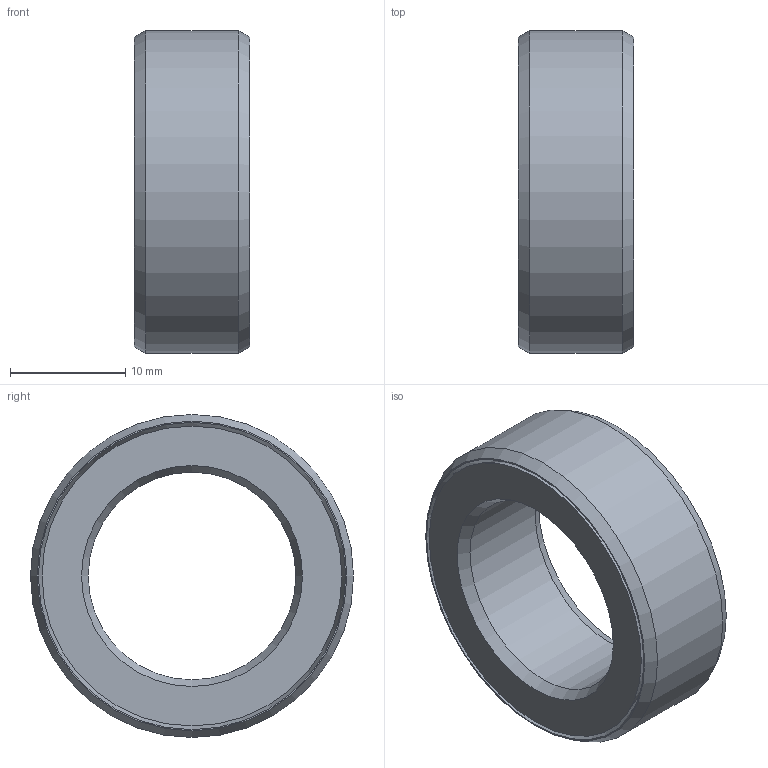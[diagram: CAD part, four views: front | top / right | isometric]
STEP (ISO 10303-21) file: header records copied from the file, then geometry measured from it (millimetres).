
FILE_DESCRIPTION(/* description */ (''),/* implementation_level */ '2;1');
FILE_NAME(/* name */ '301176 L 18x28x10.stp',/* time_stamp */ '2016-12-15T09:06:31+01:00',/* author */ (''),/* organization */ (''),/* preprocessor_version */ 'ST-DEVELOPER v15',/* originating_system */ 'SIEMENS PLM Software NX 8.5',/* authorisation */ '');
FILE_SCHEMA (('CONFIG_CONTROL_DESIGN'));
Length unit declared in the file: millimetre
Products named in the file (1): ATE0000122_01
Bounding box: 10 x 28 x 28 mm (x, y, z)
Volume: 3253.4 mm3; surface area: 3832.8 mm2
Topology: 2 solids, 2 shells, 18 faces, 34 edges, 20 vertices
Faces by surface type: cone 12, plane 4, cylinder 2
Full cylindrical faces by diameter (mm): 18 x1, 28 x1
Entity records: 454 total; most frequent: DIRECTION 74, CARTESIAN_POINT 55, AXIS2_PLACEMENT_3D 37, FACE_BOUND 36, EDGE_LOOP 36, ORIENTED_EDGE 36, ADVANCED_FACE 18, VERTEX_POINT 18
